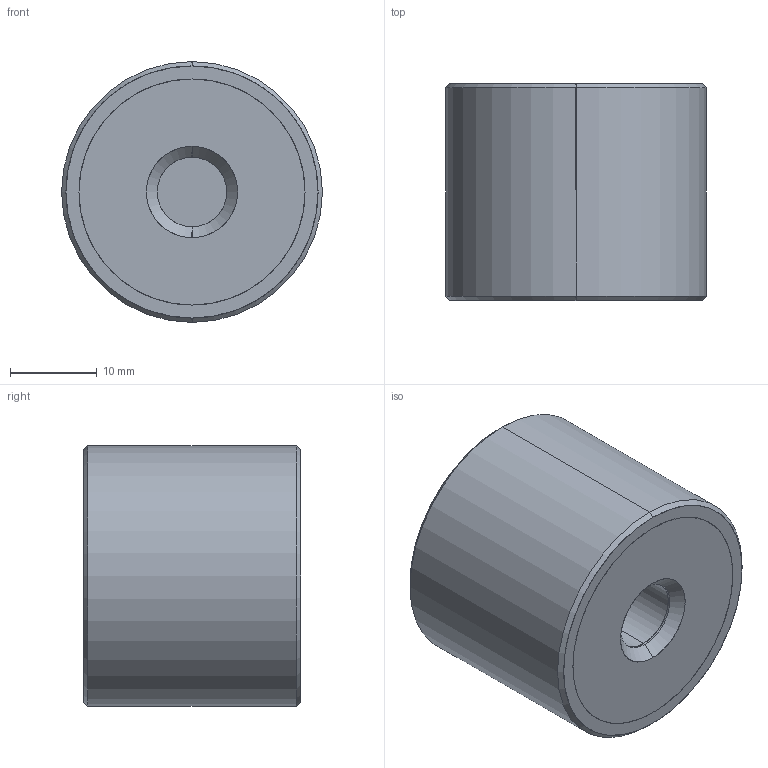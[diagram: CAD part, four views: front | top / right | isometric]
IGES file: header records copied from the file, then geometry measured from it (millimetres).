
Start section: SolidWorks IGES file using analytic representation for surfaces
Global section: file name: E:\WIXROYD 20180701\61080_v2\61080_v2_20180409_IGES\61080.W0302.igs; native system: SolidWorks 2017; preprocessor: SolidWorks 2017; author: liam_; date: 180716.214405; units: millimetre
Bounding box: 30 x 25 x 30 mm (x, y, z)
Surface area: 6496.2 mm2 (no closed solid volume)
Topology: 0 solids, 0 shells, 36 faces, 744 edges, 744 vertices
Faces by surface type: revolution 26, bspline 10
